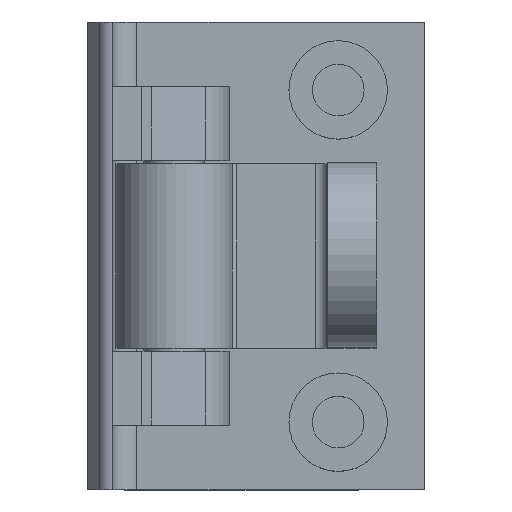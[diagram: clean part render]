
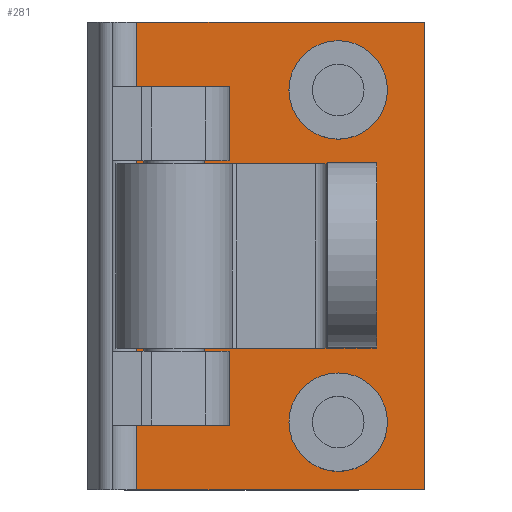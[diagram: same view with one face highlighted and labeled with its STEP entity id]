
A CAD part, top view. The second image highlights one B-rep face of the part: STEP entity #281.
In plain terms, the highlighted planar face has unit normal (0, 0, 1).
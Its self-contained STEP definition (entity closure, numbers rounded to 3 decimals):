
#281=ADVANCED_FACE('',(#565,#302,#303),#4908,.T.);
#302=FACE_BOUND('',#848,.T.);
#303=FACE_BOUND('',#849,.T.);
#565=FACE_OUTER_BOUND('',#847,.T.);
#847=EDGE_LOOP('',(#2228,#2229,#2230,#2231,#2232,#2233,#2234,#2235,#2236,
#2237,#2238,#2239));
#848=EDGE_LOOP('',(#2240,#2241));
#849=EDGE_LOOP('',(#2242,#2243));
#2228=ORIENTED_EDGE('',*,*,#2891,.F.);
#2229=ORIENTED_EDGE('',*,*,#2909,.F.);
#2230=ORIENTED_EDGE('',*,*,#2985,.T.);
#2231=ORIENTED_EDGE('',*,*,#2933,.F.);
#2232=ORIENTED_EDGE('',*,*,#2928,.F.);
#2233=ORIENTED_EDGE('',*,*,#2930,.F.);
#2234=ORIENTED_EDGE('',*,*,#2966,.T.);
#2235=ORIENTED_EDGE('',*,*,#2968,.F.);
#2236=ORIENTED_EDGE('',*,*,#2945,.F.);
#2237=ORIENTED_EDGE('',*,*,#2971,.F.);
#2238=ORIENTED_EDGE('',*,*,#2980,.T.);
#2239=ORIENTED_EDGE('',*,*,#2908,.F.);
#2240=ORIENTED_EDGE('',*,*,#3000,.F.);
#2241=ORIENTED_EDGE('',*,*,#2975,.F.);
#2242=ORIENTED_EDGE('',*,*,#2996,.F.);
#2243=ORIENTED_EDGE('',*,*,#2937,.F.);
#2891=EDGE_CURVE('',#4563,#4560,#4130,.T.);
#2908=EDGE_CURVE('',#4560,#4575,#4144,.T.);
#2909=EDGE_CURVE('',#4579,#4563,#4145,.T.);
#2928=EDGE_CURVE('',#4594,#4595,#4161,.T.);
#2930=EDGE_CURVE('',#4597,#4594,#4163,.T.);
#2933=EDGE_CURVE('',#4595,#4601,#4166,.T.);
#2937=EDGE_CURVE('',#4607,#4604,#3463,.T.);
#2945=EDGE_CURVE('',#4615,#4612,#3022,.T.);
#2966=EDGE_CURVE('',#4597,#4629,#3025,.T.);
#2968=EDGE_CURVE('',#4612,#4629,#4180,.T.);
#2971=EDGE_CURVE('',#4631,#4615,#4183,.T.);
#2975=EDGE_CURVE('',#4635,#4632,#3475,.T.);
#2980=EDGE_CURVE('',#4631,#4575,#3030,.T.);
#2985=EDGE_CURVE('',#4579,#4601,#3031,.T.);
#2996=EDGE_CURVE('',#4604,#4607,#3486,.T.);
#3000=EDGE_CURVE('',#4632,#4635,#3490,.T.);
#3022=(
BOUNDED_CURVE()
B_SPLINE_CURVE(1,(#9436,#9437),.UNSPECIFIED.,.F.,.F.)
B_SPLINE_CURVE_WITH_KNOTS((2,2),(0.,38.),.UNSPECIFIED.)
CURVE()
GEOMETRIC_REPRESENTATION_ITEM()
RATIONAL_B_SPLINE_CURVE((1.,1.))
REPRESENTATION_ITEM('')
);
#3025=(
BOUNDED_CURVE()
B_SPLINE_CURVE(1,(#9483,#9484),.UNSPECIFIED.,.F.,.F.)
B_SPLINE_CURVE_WITH_KNOTS((2,2),(-5.245,0.),.UNSPECIFIED.)
CURVE()
GEOMETRIC_REPRESENTATION_ITEM()
RATIONAL_B_SPLINE_CURVE((1.,1.))
REPRESENTATION_ITEM('')
);
#3030=(
BOUNDED_CURVE()
B_SPLINE_CURVE(1,(#9516,#9517),.UNSPECIFIED.,.F.,.F.)
B_SPLINE_CURVE_WITH_KNOTS((2,2),(-5.245,0.),.UNSPECIFIED.)
CURVE()
GEOMETRIC_REPRESENTATION_ITEM()
RATIONAL_B_SPLINE_CURVE((1.,1.))
REPRESENTATION_ITEM('')
);
#3031=(
BOUNDED_CURVE()
B_SPLINE_CURVE(1,(#9529,#9530),.UNSPECIFIED.,.F.,.F.)
B_SPLINE_CURVE_WITH_KNOTS((2,2),(-15.51,0.),.UNSPECIFIED.)
CURVE()
GEOMETRIC_REPRESENTATION_ITEM()
RATIONAL_B_SPLINE_CURVE((1.,1.))
REPRESENTATION_ITEM('')
);
#3463=TRIMMED_CURVE($,#3925,(#9416),(#9417),.T.,.CARTESIAN.);
#3475=TRIMMED_CURVE($,#3937,(#9504),(#9505),.T.,.CARTESIAN.);
#3486=TRIMMED_CURVE($,#3948,(#9557),(#9558),.T.,.CARTESIAN.);
#3490=TRIMMED_CURVE($,#3952,(#9569),(#9570),.T.,.CARTESIAN.);
#3925=CIRCLE('',#5695,4.);
#3937=CIRCLE('',#5707,4.);
#3948=CIRCLE('',#5718,4.);
#3952=CIRCLE('',#5722,4.);
#4130=B_SPLINE_CURVE_WITH_KNOTS('',1,(#9318,#9319),.UNSPECIFIED.,.F.,.F.,
(2,2),(0.,6.),.UNSPECIFIED.);
#4144=B_SPLINE_CURVE_WITH_KNOTS('',1,(#9354,#9355),.UNSPECIFIED.,.F.,.F.,
(2,2),(0.,7.5),.UNSPECIFIED.);
#4145=B_SPLINE_CURVE_WITH_KNOTS('',1,(#9356,#9357),.UNSPECIFIED.,.F.,.F.,
(2,2),(0.,7.5),.UNSPECIFIED.);
#4161=B_SPLINE_CURVE_WITH_KNOTS('',1,(#9396,#9397),.UNSPECIFIED.,.F.,.F.,
(2,2),(0.,6.),.UNSPECIFIED.);
#4163=B_SPLINE_CURVE_WITH_KNOTS('',1,(#9400,#9401),.UNSPECIFIED.,.F.,.F.,
(2,2),(0.,7.5),.UNSPECIFIED.);
#4166=B_SPLINE_CURVE_WITH_KNOTS('',1,(#9406,#9407),.UNSPECIFIED.,.F.,.F.,
(2,2),(0.,7.5),.UNSPECIFIED.);
#4180=B_SPLINE_CURVE_WITH_KNOTS('',1,(#9488,#9489),.UNSPECIFIED.,.F.,.F.,
(2,2),(0.,23.359),.UNSPECIFIED.);
#4183=B_SPLINE_CURVE_WITH_KNOTS('',1,(#9494,#9495),.UNSPECIFIED.,.F.,.F.,
(2,2),(0.,23.359),.UNSPECIFIED.);
#4560=VERTEX_POINT('',#9232);
#4563=VERTEX_POINT('',#9235);
#4575=VERTEX_POINT('',#9247);
#4579=VERTEX_POINT('',#9251);
#4594=VERTEX_POINT('',#9266);
#4595=VERTEX_POINT('',#9267);
#4597=VERTEX_POINT('',#9269);
#4601=VERTEX_POINT('',#9273);
#4604=VERTEX_POINT('',#9276);
#4607=VERTEX_POINT('',#9279);
#4612=VERTEX_POINT('',#9284);
#4615=VERTEX_POINT('',#9287);
#4629=VERTEX_POINT('',#9301);
#4631=VERTEX_POINT('',#9303);
#4632=VERTEX_POINT('',#9304);
#4635=VERTEX_POINT('',#9307);
#4908=PLANE('',#5679);
#5679=AXIS2_PLACEMENT_3D('',#9221,#6836,$);
#5695=AXIS2_PLACEMENT_3D($,#9415,#6857,#6858);
#5707=AXIS2_PLACEMENT_3D($,#9503,#6881,#6882);
#5718=AXIS2_PLACEMENT_3D($,#9556,#6903,#6904);
#5722=AXIS2_PLACEMENT_3D($,#9568,#6911,#6912);
#6836=DIRECTION('',(0.,0.,1.));
#6857=DIRECTION('',(0.,0.,1.));
#6858=DIRECTION('',(1.,0.,0.));
#6881=DIRECTION('',(0.,0.,1.));
#6882=DIRECTION('',(1.,0.,0.));
#6903=DIRECTION('',(0.,0.,1.));
#6904=DIRECTION('',(-1.,0.,0.));
#6911=DIRECTION('',(0.,0.,1.));
#6912=DIRECTION('',(-1.,0.,0.));
#9221=CARTESIAN_POINT('',(-30.701,-15.057,-52.202));
#9232=CARTESIAN_POINT('',(-20.854,21.51,-52.202));
#9235=CARTESIAN_POINT('',(-20.854,15.51,-52.202));
#9247=CARTESIAN_POINT('',(-28.354,21.51,-52.202));
#9251=CARTESIAN_POINT('',(-28.354,15.51,-52.202));
#9266=CARTESIAN_POINT('',(-20.854,-6.,-52.202));
#9267=CARTESIAN_POINT('',(-20.854,0.,-52.202));
#9269=CARTESIAN_POINT('',(-28.354,-6.,-52.202));
#9273=CARTESIAN_POINT('',(-28.354,0.,-52.202));
#9276=CARTESIAN_POINT('',(-15.994,21.255,-52.202));
#9279=CARTESIAN_POINT('',(-7.994,21.255,-52.202));
#9284=CARTESIAN_POINT('',(-4.994,-11.245,-52.202));
#9287=CARTESIAN_POINT('',(-4.994,26.755,-52.202));
#9301=CARTESIAN_POINT('',(-28.354,-11.245,-52.202));
#9303=CARTESIAN_POINT('',(-28.354,26.755,-52.202));
#9304=CARTESIAN_POINT('',(-15.994,-5.745,-52.202));
#9307=CARTESIAN_POINT('',(-7.994,-5.745,-52.202));
#9318=CARTESIAN_POINT('',(-20.854,15.51,-52.202));
#9319=CARTESIAN_POINT('',(-20.854,21.51,-52.202));
#9354=CARTESIAN_POINT('',(-20.854,21.51,-52.202));
#9355=CARTESIAN_POINT('',(-28.354,21.51,-52.202));
#9356=CARTESIAN_POINT('',(-28.354,15.51,-52.202));
#9357=CARTESIAN_POINT('',(-20.854,15.51,-52.202));
#9396=CARTESIAN_POINT('',(-20.854,-6.,-52.202));
#9397=CARTESIAN_POINT('',(-20.854,0.,-52.202));
#9400=CARTESIAN_POINT('',(-28.354,-6.,-52.202));
#9401=CARTESIAN_POINT('',(-20.854,-6.,-52.202));
#9406=CARTESIAN_POINT('',(-20.854,0.,-52.202));
#9407=CARTESIAN_POINT('',(-28.354,0.,-52.202));
#9415=CARTESIAN_POINT('',(-11.994,21.255,-52.202));
#9416=CARTESIAN_POINT('',(-7.994,21.255,-52.202));
#9417=CARTESIAN_POINT('',(-15.994,21.255,-52.202));
#9436=CARTESIAN_POINT('',(-4.994,26.755,-52.202));
#9437=CARTESIAN_POINT('',(-4.994,-11.245,-52.202));
#9483=CARTESIAN_POINT('',(-28.354,-6.,-52.202));
#9484=CARTESIAN_POINT('',(-28.354,-11.245,-52.202));
#9488=CARTESIAN_POINT('',(-4.994,-11.245,-52.202));
#9489=CARTESIAN_POINT('',(-28.354,-11.245,-52.202));
#9494=CARTESIAN_POINT('',(-28.354,26.755,-52.202));
#9495=CARTESIAN_POINT('',(-4.994,26.755,-52.202));
#9503=CARTESIAN_POINT('',(-11.994,-5.745,-52.202));
#9504=CARTESIAN_POINT('',(-7.994,-5.745,-52.202));
#9505=CARTESIAN_POINT('',(-15.994,-5.745,-52.202));
#9516=CARTESIAN_POINT('',(-28.354,26.755,-52.202));
#9517=CARTESIAN_POINT('',(-28.354,21.51,-52.202));
#9529=CARTESIAN_POINT('',(-28.354,15.51,-52.202));
#9530=CARTESIAN_POINT('',(-28.354,0.,-52.202));
#9556=CARTESIAN_POINT('',(-11.994,21.255,-52.202));
#9557=CARTESIAN_POINT('',(-15.994,21.255,-52.202));
#9558=CARTESIAN_POINT('',(-7.994,21.255,-52.202));
#9568=CARTESIAN_POINT('',(-11.994,-5.745,-52.202));
#9569=CARTESIAN_POINT('',(-15.994,-5.745,-52.202));
#9570=CARTESIAN_POINT('',(-7.994,-5.745,-52.202));
